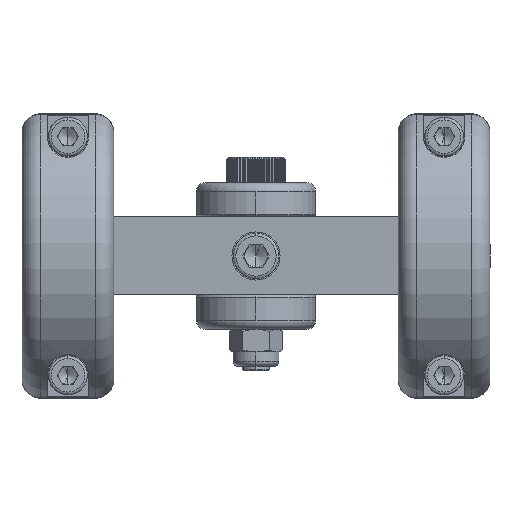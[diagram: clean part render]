
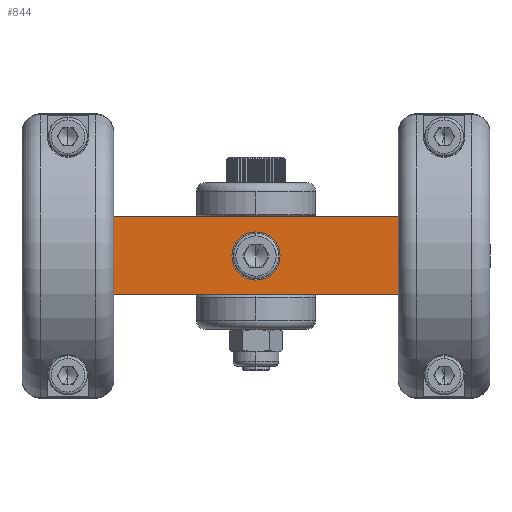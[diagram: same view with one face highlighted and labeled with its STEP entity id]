
A CAD part, front view. The second image highlights one B-rep face of the part: STEP entity #844.
In plain terms, the highlighted planar face has unit normal (0, -1, 0) as drawn and (0, 0, -1) by its records, which use the part's own axes.
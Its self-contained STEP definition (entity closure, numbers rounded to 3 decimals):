
#243=DIRECTION('',(0.,-1.,0.));
#244=VECTOR('',#243,70.);
#245=CARTESIAN_POINT('',(17.,0.,0.));
#246=LINE('',#245,#244);
#250=DIRECTION('',(1.,0.,0.));
#251=VECTOR('',#250,17.);
#252=CARTESIAN_POINT('',(0.,0.,0.));
#253=LINE('',#252,#251);
#257=DIRECTION('',(0.,1.,0.));
#258=VECTOR('',#257,70.);
#259=CARTESIAN_POINT('',(0.,-70.,0.));
#260=LINE('',#259,#258);
#264=DIRECTION('',(-1.,0.,0.));
#265=VECTOR('',#264,17.);
#266=CARTESIAN_POINT('',(17.,-70.,0.));
#267=LINE('',#266,#265);
#271=CARTESIAN_POINT('',(8.5,-35.,0.));
#272=DIRECTION('',(0.,0.,1.));
#273=DIRECTION('',(1.,0.,0.));
#274=AXIS2_PLACEMENT_3D('',#271,#272,#273);
#279=CARTESIAN_POINT('',(8.5,-35.,0.));
#280=DIRECTION('',(0.,0.,1.));
#281=DIRECTION('',(-1.,0.,0.));
#282=AXIS2_PLACEMENT_3D('',#279,#280,#281);
#543=CARTESIAN_POINT('',(0.,-70.,0.));
#544=CARTESIAN_POINT('',(0.,0.,0.));
#545=VERTEX_POINT('',#543);
#546=VERTEX_POINT('',#544);
#573=CARTESIAN_POINT('',(17.,-70.,0.));
#574=VERTEX_POINT('',#573);
#583=CARTESIAN_POINT('',(17.,0.,0.));
#584=VERTEX_POINT('',#583);
#593=CARTESIAN_POINT('',(3.25,-35.,0.));
#594=VERTEX_POINT('',#593);
#597=CARTESIAN_POINT('',(13.75,-35.,0.));
#598=VERTEX_POINT('',#597);
#827=CARTESIAN_POINT('',(17.,0.,0.));
#828=DIRECTION('',(0.,0.,-1.));
#829=DIRECTION('',(-1.,0.,0.));
#830=AXIS2_PLACEMENT_3D('',#827,#828,#829);
#831=PLANE('',#830);
#832=ORIENTED_EDGE('',*,*,#647,.F.);
#833=ORIENTED_EDGE('',*,*,#744,.F.);
#834=ORIENTED_EDGE('',*,*,#810,.F.);
#835=ORIENTED_EDGE('',*,*,#610,.F.);
#836=EDGE_LOOP('',(#832,#833,#834,#835));
#837=FACE_OUTER_BOUND('',#836,.F.);
#839=ORIENTED_EDGE('',*,*,#838,.F.);
#841=ORIENTED_EDGE('',*,*,#840,.F.);
#842=EDGE_LOOP('',(#839,#841));
#843=FACE_BOUND('',#842,.F.);
#275=CIRCLE('',#274,5.25);
#283=CIRCLE('',#282,5.25);
#610=EDGE_CURVE('',#574,#545,#267,.T.);
#647=EDGE_CURVE('',#584,#574,#246,.T.);
#744=EDGE_CURVE('',#546,#584,#253,.T.);
#810=EDGE_CURVE('',#545,#546,#260,.T.);
#838=EDGE_CURVE('',#598,#594,#275,.T.);
#840=EDGE_CURVE('',#594,#598,#283,.T.);
#844=ADVANCED_FACE('',(#837,#843),#831,.T.);
